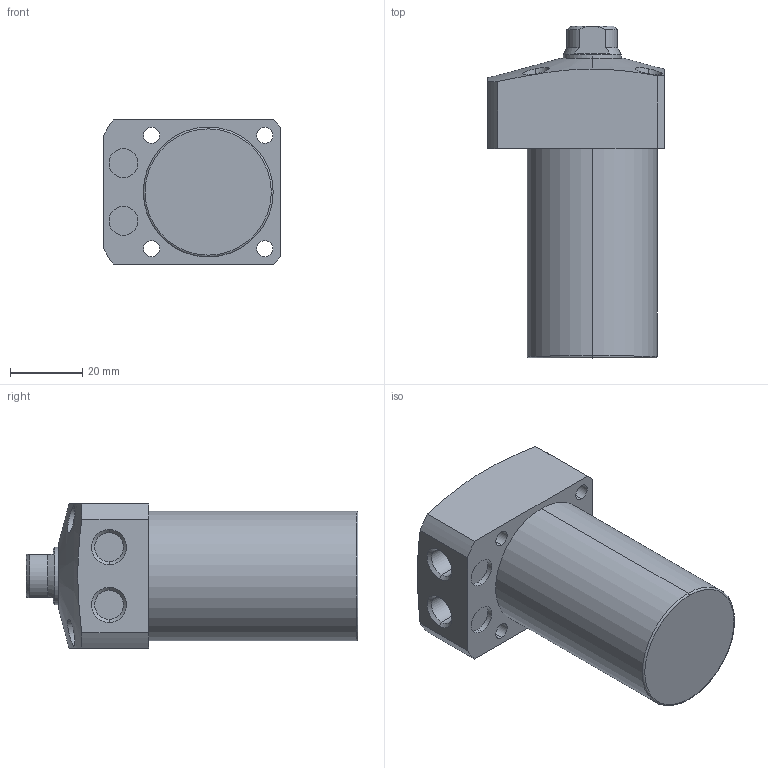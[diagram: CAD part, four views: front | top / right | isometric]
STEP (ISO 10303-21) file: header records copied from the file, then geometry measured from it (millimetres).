
FILE_DESCRIPTION (( 'STEP AP203' ), '1' );
FILE_NAME ('CLL-036CA-050.STEP', '2020-01-03T12:26:03', ( '' ), ( '' ), 'SwSTEP 2.0', 'SolidWorks 2015', '' );
FILE_SCHEMA (( 'CONFIG_CONTROL_DESIGN' ));
Length unit declared in the file: millimetre
Products named in the file (1): CLL-036CA-050
Bounding box: 49 x 92 x 40 mm (x, y, z)
Volume: 100479.3 mm3; surface area: 16735.1 mm2
Topology: 1 solids, 1 shells, 72 faces, 166 edges, 105 vertices
Faces by surface type: cylinder 34, plane 22, cone 14, torus 2
Entity records: 2453 total; most frequent: CARTESIAN_POINT 708, DIRECTION 364, ORIENTED_EDGE 328, EDGE_CURVE 164, AXIS2_PLACEMENT_3D 151, VERTEX_POINT 105, EDGE_LOOP 91, CIRCLE 78
